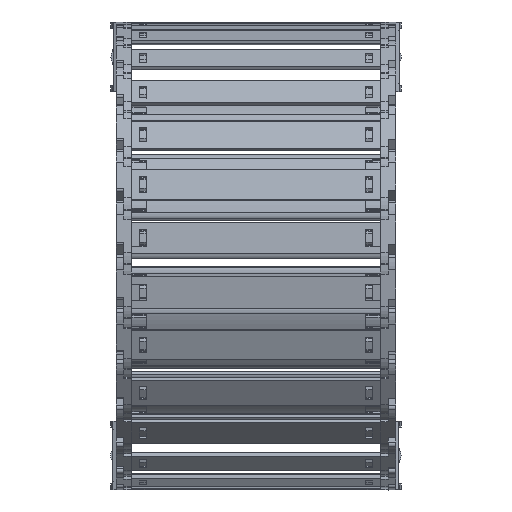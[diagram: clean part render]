
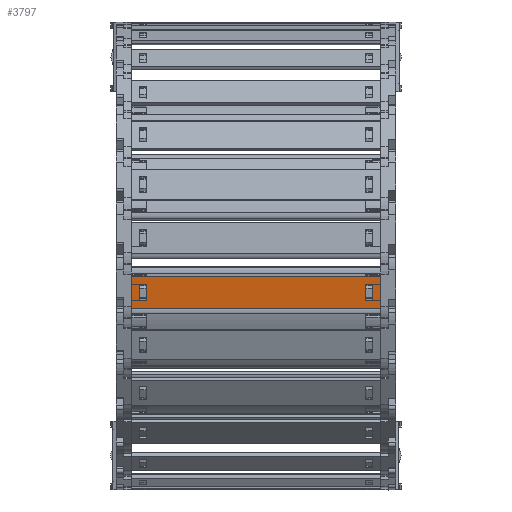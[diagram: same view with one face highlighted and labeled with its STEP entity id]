
A CAD part, top view. The second image highlights one B-rep face of the part: STEP entity #3797.
In plain terms, the highlighted planar face has unit normal (0, -0.156, 0.988) as drawn and (0, 1, 0) by its records, which use the part's own axes.
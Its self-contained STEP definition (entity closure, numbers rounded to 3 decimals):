
#2923=DIRECTION('',(0.,0.,1.));
#2924=VECTOR('',#2923,15.8);
#2925=CARTESIAN_POINT('',(110.74,1.5,-7.9));
#2926=LINE('',#2925,#2924);
#2930=DIRECTION('',(-1.,0.,0.));
#2931=VECTOR('',#2930,125.5);
#2932=CARTESIAN_POINT('',(110.74,1.5,7.9));
#2933=LINE('',#2932,#2931);
#2937=DIRECTION('',(0.,0.,-1.));
#2938=VECTOR('',#2937,15.8);
#2939=CARTESIAN_POINT('',(-14.76,1.5,7.9));
#2940=LINE('',#2939,#2938);
#2944=DIRECTION('',(1.,0.,0.));
#2945=VECTOR('',#2944,3.648);
#2946=CARTESIAN_POINT('',(103.122,1.5,4.075));
#2947=LINE('',#2946,#2945);
#2951=DIRECTION('',(0.,0.,-1.));
#2952=VECTOR('',#2951,8.15);
#2953=CARTESIAN_POINT('',(106.77,1.5,4.075));
#2954=LINE('',#2953,#2952);
#2958=DIRECTION('',(-1.,0.,0.));
#2959=VECTOR('',#2958,3.648);
#2960=CARTESIAN_POINT('',(106.77,1.5,-4.075));
#2961=LINE('',#2960,#2959);
#2965=DIRECTION('',(0.,0.,-1.));
#2966=VECTOR('',#2965,8.15);
#2967=CARTESIAN_POINT('',(-7.142,1.5,4.075));
#2968=LINE('',#2967,#2966);
#2972=DIRECTION('',(-1.,0.,0.));
#2973=VECTOR('',#2972,3.648);
#2974=CARTESIAN_POINT('',(-7.142,1.5,-4.075));
#2975=LINE('',#2974,#2973);
#2979=DIRECTION('',(0.,0.,1.));
#2980=VECTOR('',#2979,8.15);
#2981=CARTESIAN_POINT('',(-10.79,1.5,-4.075));
#2982=LINE('',#2981,#2980);
#2986=DIRECTION('',(1.,0.,0.));
#2987=VECTOR('',#2986,3.648);
#2988=CARTESIAN_POINT('',(-10.79,1.5,4.075));
#2989=LINE('',#2988,#2987);
#3000=DIRECTION('',(-1.,0.,0.));
#3001=VECTOR('',#3000,125.5);
#3002=CARTESIAN_POINT('',(110.74,1.5,-7.9));
#3003=LINE('',#3002,#3001);
#3208=DIRECTION('',(0.,0.,-1.));
#3209=VECTOR('',#3208,8.15);
#3210=CARTESIAN_POINT('',(103.122,1.5,4.075));
#3211=LINE('',#3210,#3209);
#3507=CARTESIAN_POINT('',(106.77,1.5,4.075));
#3508=VERTEX_POINT('',#3507);
#3509=CARTESIAN_POINT('',(103.122,1.5,4.075));
#3510=VERTEX_POINT('',#3509);
#3551=CARTESIAN_POINT('',(103.122,1.5,-4.075));
#3552=VERTEX_POINT('',#3551);
#3553=CARTESIAN_POINT('',(106.77,1.5,-4.075));
#3554=VERTEX_POINT('',#3553);
#3555=CARTESIAN_POINT('',(110.74,1.5,7.9));
#3557=VERTEX_POINT('',#3555);
#3559=CARTESIAN_POINT('',(110.74,1.5,-7.9));
#3560=VERTEX_POINT('',#3559);
#3583=CARTESIAN_POINT('',(-7.142,1.5,4.075));
#3584=CARTESIAN_POINT('',(-7.142,1.5,-4.075));
#3585=VERTEX_POINT('',#3583);
#3586=VERTEX_POINT('',#3584);
#3587=CARTESIAN_POINT('',(-10.79,1.5,-4.075));
#3588=VERTEX_POINT('',#3587);
#3589=CARTESIAN_POINT('',(-10.79,1.5,4.075));
#3590=VERTEX_POINT('',#3589);
#3591=CARTESIAN_POINT('',(-14.76,1.5,7.9));
#3592=VERTEX_POINT('',#3591);
#3595=CARTESIAN_POINT('',(-14.76,1.5,-7.9));
#3596=VERTEX_POINT('',#3595);
#3766=CARTESIAN_POINT('',(142.48,1.5,10.061));
#3767=DIRECTION('',(0.,-1.,0.));
#3768=DIRECTION('',(0.,0.,-1.));
#3769=AXIS2_PLACEMENT_3D('',#3766,#3767,#3768);
#3770=PLANE('',#3769);
#3771=ORIENTED_EDGE('',*,*,#3669,.T.);
#3772=ORIENTED_EDGE('',*,*,#3707,.T.);
#3773=ORIENTED_EDGE('',*,*,#3732,.T.);
#3775=ORIENTED_EDGE('',*,*,#3774,.F.);
#3776=EDGE_LOOP('',(#3771,#3772,#3773,#3775));
#3777=FACE_OUTER_BOUND('',#3776,.F.);
#3779=ORIENTED_EDGE('',*,*,#3778,.F.);
#3780=ORIENTED_EDGE('',*,*,#3608,.T.);
#3782=ORIENTED_EDGE('',*,*,#3781,.T.);
#3784=ORIENTED_EDGE('',*,*,#3783,.T.);
#3785=EDGE_LOOP('',(#3779,#3780,#3782,#3784));
#3786=FACE_BOUND('',#3785,.F.);
#3788=ORIENTED_EDGE('',*,*,#3787,.T.);
#3790=ORIENTED_EDGE('',*,*,#3789,.T.);
#3792=ORIENTED_EDGE('',*,*,#3791,.T.);
#3794=ORIENTED_EDGE('',*,*,#3793,.T.);
#3795=EDGE_LOOP('',(#3788,#3790,#3792,#3794));
#3796=FACE_BOUND('',#3795,.F.);
#3797=ADVANCED_FACE('',(#3777,#3786,#3796),#3770,.F.);
#3608=EDGE_CURVE('',#3510,#3508,#2947,.T.);
#3669=EDGE_CURVE('',#3560,#3557,#2926,.T.);
#3707=EDGE_CURVE('',#3557,#3592,#2933,.T.);
#3732=EDGE_CURVE('',#3592,#3596,#2940,.T.);
#3774=EDGE_CURVE('',#3560,#3596,#3003,.T.);
#3778=EDGE_CURVE('',#3510,#3552,#3211,.T.);
#3781=EDGE_CURVE('',#3508,#3554,#2954,.T.);
#3783=EDGE_CURVE('',#3554,#3552,#2961,.T.);
#3787=EDGE_CURVE('',#3585,#3586,#2968,.T.);
#3789=EDGE_CURVE('',#3586,#3588,#2975,.T.);
#3791=EDGE_CURVE('',#3588,#3590,#2982,.T.);
#3793=EDGE_CURVE('',#3590,#3585,#2989,.T.);
